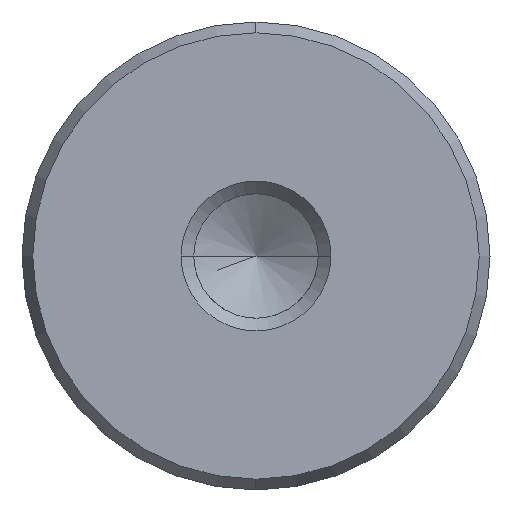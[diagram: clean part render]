
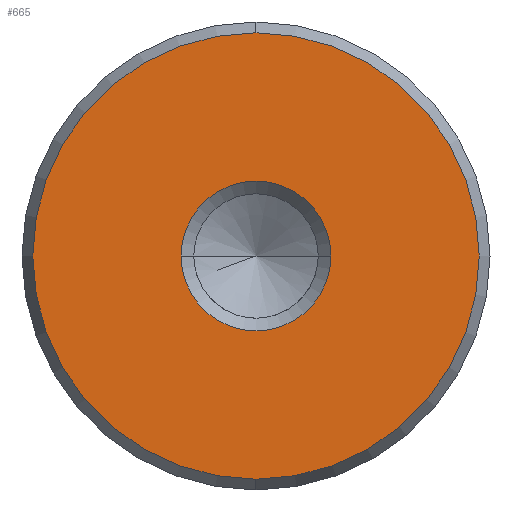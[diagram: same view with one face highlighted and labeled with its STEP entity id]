
A CAD part, left-side view. The second image highlights one B-rep face of the part: STEP entity #665.
In plain terms, the highlighted planar face has unit normal (-1, 0, 0).
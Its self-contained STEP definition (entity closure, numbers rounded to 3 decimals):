
#579=CARTESIAN_POINT('Vertex',(0.,0.,-11.923)) ;
#582=CARTESIAN_POINT('Axis2P3D Location',(0.,0.,0.)) ;
#586=CARTESIAN_POINT('Vertex',(0.,11.923,0.)) ;
#589=CARTESIAN_POINT('Axis2P3D Location',(0.,0.,0.)) ;
#593=CARTESIAN_POINT('Vertex',(0.,0.,11.923)) ;
#615=CARTESIAN_POINT('Axis2P3D Location',(0.,0.,0.)) ;
#619=CARTESIAN_POINT('Vertex',(0.,-11.923,0.)) ;
#622=CARTESIAN_POINT('Axis2P3D Location',(0.,0.,0.)) ;
#636=CARTESIAN_POINT('Axis2P3D Location',(0.,0.,0.)) ;
#647=CARTESIAN_POINT('Axis2P3D Location',(0.,0.,0.)) ;
#651=CARTESIAN_POINT('Vertex',(0.,4.,0.)) ;
#653=CARTESIAN_POINT('Vertex',(0.,-4.,0.)) ;
#656=CARTESIAN_POINT('Axis2P3D Location',(0.,0.,0.)) ;
#583=DIRECTION('Axis2P3D Direction',(1.,0.,-0.)) ;
#590=DIRECTION('Axis2P3D Direction',(1.,0.,-0.)) ;
#616=DIRECTION('Axis2P3D Direction',(1.,0.,-0.)) ;
#623=DIRECTION('Axis2P3D Direction',(1.,0.,-0.)) ;
#637=DIRECTION('Axis2P3D Direction',(1.,0.,-0.)) ;
#638=DIRECTION('Axis2P3D XDirection',(-0.,0.,-1.)) ;
#648=DIRECTION('Axis2P3D Direction',(1.,0.,-0.)) ;
#657=DIRECTION('Axis2P3D Direction',(1.,0.,-0.)) ;
#584=AXIS2_PLACEMENT_3D('Circle Axis2P3D',#582,#583,$) ;
#591=AXIS2_PLACEMENT_3D('Circle Axis2P3D',#589,#590,$) ;
#617=AXIS2_PLACEMENT_3D('Circle Axis2P3D',#615,#616,$) ;
#624=AXIS2_PLACEMENT_3D('Circle Axis2P3D',#622,#623,$) ;
#639=AXIS2_PLACEMENT_3D('Plane Axis2P3D',#636,#637,#638) ;
#649=AXIS2_PLACEMENT_3D('Circle Axis2P3D',#647,#648,$) ;
#658=AXIS2_PLACEMENT_3D('Circle Axis2P3D',#656,#657,$) ;
#642=ORIENTED_EDGE('',*,*,#588,.F.) ;
#643=ORIENTED_EDGE('',*,*,#626,.F.) ;
#644=ORIENTED_EDGE('',*,*,#621,.F.) ;
#645=ORIENTED_EDGE('',*,*,#595,.F.) ;
#662=ORIENTED_EDGE('',*,*,#655,.T.) ;
#663=ORIENTED_EDGE('',*,*,#660,.T.) ;
#664=FACE_BOUND('',#661,.T.) ;
#665=ADVANCED_FACE('720-25x450',(#646,#664),#640,.F.) ;
#585=CIRCLE('generated circle',#584,11.923) ;
#592=CIRCLE('generated circle',#591,11.923) ;
#618=CIRCLE('generated circle',#617,11.923) ;
#625=CIRCLE('generated circle',#624,11.923) ;
#650=CIRCLE('generated circle',#649,4.) ;
#659=CIRCLE('generated circle',#658,4.) ;
#588=EDGE_CURVE('',#580,#587,#585,.T.) ;
#595=EDGE_CURVE('',#587,#594,#592,.T.) ;
#621=EDGE_CURVE('',#594,#620,#618,.T.) ;
#626=EDGE_CURVE('',#620,#580,#625,.T.) ;
#655=EDGE_CURVE('',#652,#654,#650,.T.) ;
#660=EDGE_CURVE('',#654,#652,#659,.T.) ;
#641=EDGE_LOOP('',(#642,#643,#644,#645)) ;
#661=EDGE_LOOP('',(#662,#663)) ;
#646=FACE_OUTER_BOUND('',#641,.T.) ;
#640=PLANE('Plane',#639) ;
#580=VERTEX_POINT('',#579) ;
#587=VERTEX_POINT('',#586) ;
#594=VERTEX_POINT('',#593) ;
#620=VERTEX_POINT('',#619) ;
#652=VERTEX_POINT('',#651) ;
#654=VERTEX_POINT('',#653) ;
